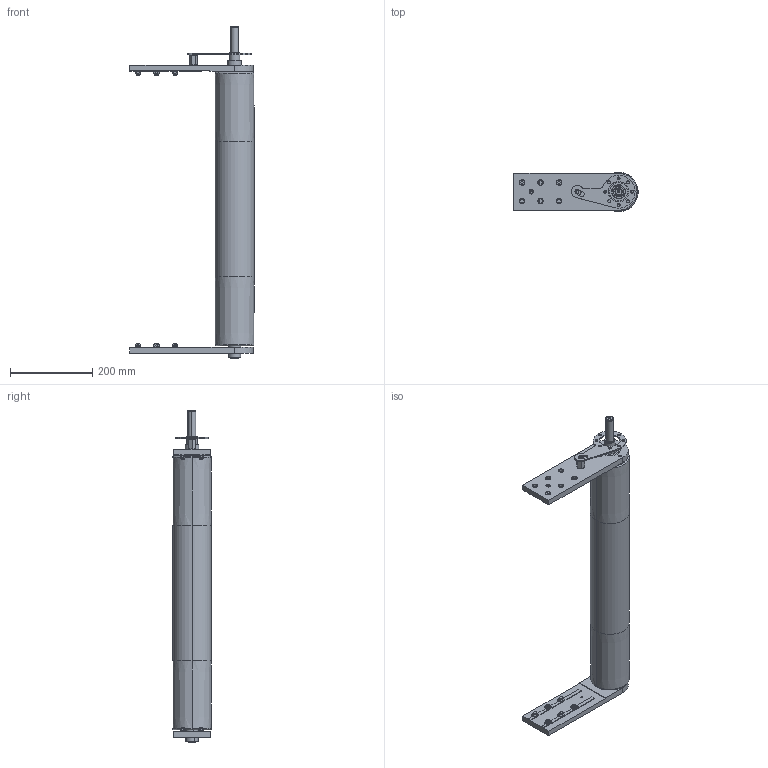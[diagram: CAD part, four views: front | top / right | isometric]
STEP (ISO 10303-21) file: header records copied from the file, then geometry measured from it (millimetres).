
FILE_DESCRIPTION (( 'STEP AP203' ), '1' );
FILE_NAME ('084.095.KD.44.640.STEP', '2019-10-29T11:08:40', ( 'Localadmin' ), ( 'Microsoft' ), 'SwSTEP 2.0', 'SolidWorks 2018', '' );
FILE_SCHEMA (( 'CONFIG_CONTROL_DESIGN' ));
Length unit declared in the file: millimetre
Products named in the file (15): 084.808.003_084.808.003; 084.808.002_084.808.002; 084.802.027; 084.810.003; 084.807.005; 084.802.019_084.802.019; 084.812.001; CHIAVETTE_A 6x6x60 UNI 6604-69; 084.301.000 VITI ALUSIC_084.301.003; 084.802.034_084.802.034; Circlip DIN 471 - 30 x 1.5_Circlip DIN 471 - 30 x 1.5; 084.302.000 DADI ALUSIC 13x13_084.302.004; 084.095.KD.44.640; 084.816.183_084.816.110<A macchina>; 084.812.003
Assembly tree (38 placements, depth 2):
  084.095.KD.44.640
    084.802.027
    084.807.005
    084.812.001
    084.802.034_084.802.034
    084.301.000 VITI ALUSIC_084.301.003  x12
    084.302.000 DADI ALUSIC 13x13_084.302.004  x12
    084.816.183_084.816.110<A macchina>
    084.812.003
    084.808.003_084.808.003
    084.808.002_084.808.002
    084.810.003  x2
    084.802.019_084.802.019
    CHIAVETTE_A 6x6x60 UNI 6604-69
    Circlip DIN 471 - 30 x 1.5_Circlip DIN 471 - 30 x 1.5  x2
Bounding box: 302.5 x 95 x 808.5 mm (x, y, z)
Volume: 2133286.8 mm3; surface area: 908757.7 mm2
Topology: 43 solids, 44 shells, 1023 faces, 2560 edges, 1663 vertices
Faces by surface type: plane 457, cylinder 341, torus 92, cone 76, bspline 48, sphere 9
Entity records: 22007 total; most frequent: CARTESIAN_POINT 4393, DIRECTION 3334, ORIENTED_EDGE 3132, EDGE_CURVE 1566, AXIS2_PLACEMENT_3D 1313, VERTEX_POINT 1020, EDGE_LOOP 734, CIRCLE 711
